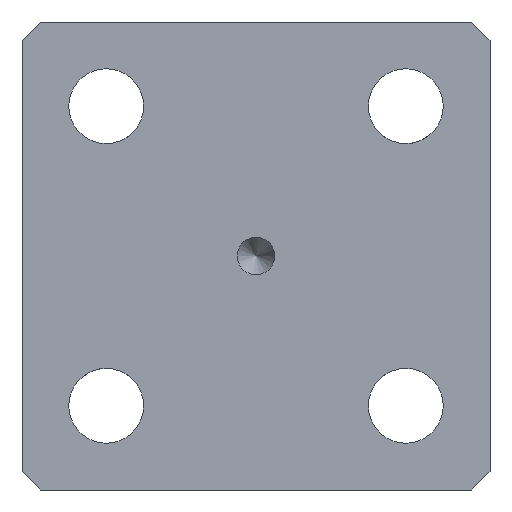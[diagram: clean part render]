
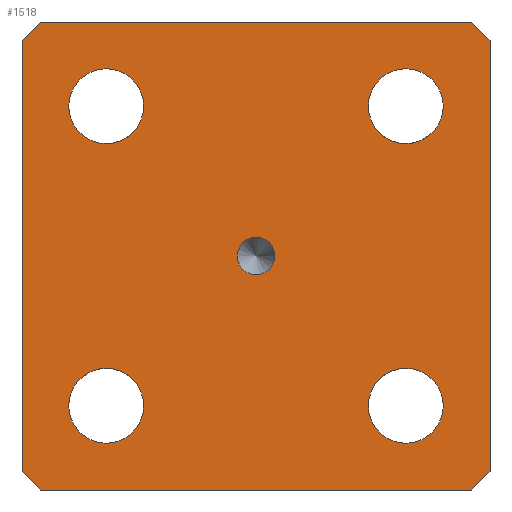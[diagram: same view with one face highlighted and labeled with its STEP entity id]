
A CAD part, front view. The second image highlights one B-rep face of the part: STEP entity #1518.
In plain terms, the highlighted planar face has unit normal (0, -1, 0).
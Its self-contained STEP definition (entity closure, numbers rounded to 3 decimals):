
#56=FACE_BOUND('',#254,.T.);
#57=FACE_BOUND('',#255,.T.);
#58=FACE_BOUND('',#256,.T.);
#59=FACE_BOUND('',#257,.T.);
#60=FACE_BOUND('',#258,.T.);
#115=PLANE('',#1648);
#175=FACE_OUTER_BOUND('',#253,.T.);
#253=EDGE_LOOP('',(#1194,#1195,#1196,#1197,#1198,#1199,#1200,#1201));
#254=EDGE_LOOP('',(#1202,#1203));
#255=EDGE_LOOP('',(#1204,#1205));
#256=EDGE_LOOP('',(#1206,#1207));
#257=EDGE_LOOP('',(#1208,#1209));
#258=EDGE_LOOP('',(#1210,#1211));
#386=LINE('',#2356,#512);
#388=LINE('',#2360,#514);
#389=LINE('',#2362,#515);
#390=LINE('',#2364,#516);
#391=LINE('',#2366,#517);
#392=LINE('',#2368,#518);
#393=LINE('',#2370,#519);
#394=LINE('',#2371,#520);
#512=VECTOR('',#1959,10.);
#514=VECTOR('',#1963,10.);
#515=VECTOR('',#1964,10.);
#516=VECTOR('',#1965,10.);
#517=VECTOR('',#1966,10.);
#518=VECTOR('',#1967,10.);
#519=VECTOR('',#1968,10.);
#520=VECTOR('',#1969,10.);
#586=CIRCLE('',#1649,2.);
#587=CIRCLE('',#1650,2.);
#588=CIRCLE('',#1651,2.);
#589=CIRCLE('',#1652,2.);
#590=CIRCLE('',#1653,2.);
#591=CIRCLE('',#1654,2.);
#592=CIRCLE('',#1655,2.);
#593=CIRCLE('',#1656,2.);
#594=CIRCLE('',#1657,1.);
#595=CIRCLE('',#1658,1.);
#697=VERTEX_POINT('',#2353);
#698=VERTEX_POINT('',#2355);
#699=VERTEX_POINT('',#2359);
#700=VERTEX_POINT('',#2361);
#701=VERTEX_POINT('',#2363);
#702=VERTEX_POINT('',#2365);
#703=VERTEX_POINT('',#2367);
#704=VERTEX_POINT('',#2369);
#705=VERTEX_POINT('',#2372);
#706=VERTEX_POINT('',#2373);
#707=VERTEX_POINT('',#2376);
#708=VERTEX_POINT('',#2377);
#709=VERTEX_POINT('',#2380);
#710=VERTEX_POINT('',#2381);
#711=VERTEX_POINT('',#2384);
#712=VERTEX_POINT('',#2385);
#713=VERTEX_POINT('',#2388);
#714=VERTEX_POINT('',#2389);
#880=EDGE_CURVE('',#697,#698,#386,.T.);
#882=EDGE_CURVE('',#699,#697,#388,.T.);
#883=EDGE_CURVE('',#700,#699,#389,.T.);
#884=EDGE_CURVE('',#701,#700,#390,.T.);
#885=EDGE_CURVE('',#702,#701,#391,.T.);
#886=EDGE_CURVE('',#703,#702,#392,.T.);
#887=EDGE_CURVE('',#704,#703,#393,.T.);
#888=EDGE_CURVE('',#698,#704,#394,.T.);
#889=EDGE_CURVE('',#705,#706,#586,.T.);
#890=EDGE_CURVE('',#706,#705,#587,.T.);
#891=EDGE_CURVE('',#707,#708,#588,.T.);
#892=EDGE_CURVE('',#708,#707,#589,.T.);
#893=EDGE_CURVE('',#709,#710,#590,.T.);
#894=EDGE_CURVE('',#710,#709,#591,.T.);
#895=EDGE_CURVE('',#711,#712,#592,.T.);
#896=EDGE_CURVE('',#712,#711,#593,.T.);
#897=EDGE_CURVE('',#713,#714,#594,.T.);
#898=EDGE_CURVE('',#714,#713,#595,.T.);
#1194=ORIENTED_EDGE('',*,*,#880,.F.);
#1195=ORIENTED_EDGE('',*,*,#882,.F.);
#1196=ORIENTED_EDGE('',*,*,#883,.F.);
#1197=ORIENTED_EDGE('',*,*,#884,.F.);
#1198=ORIENTED_EDGE('',*,*,#885,.F.);
#1199=ORIENTED_EDGE('',*,*,#886,.F.);
#1200=ORIENTED_EDGE('',*,*,#887,.F.);
#1201=ORIENTED_EDGE('',*,*,#888,.F.);
#1202=ORIENTED_EDGE('',*,*,#889,.T.);
#1203=ORIENTED_EDGE('',*,*,#890,.T.);
#1204=ORIENTED_EDGE('',*,*,#891,.T.);
#1205=ORIENTED_EDGE('',*,*,#892,.T.);
#1206=ORIENTED_EDGE('',*,*,#893,.T.);
#1207=ORIENTED_EDGE('',*,*,#894,.T.);
#1208=ORIENTED_EDGE('',*,*,#895,.T.);
#1209=ORIENTED_EDGE('',*,*,#896,.T.);
#1210=ORIENTED_EDGE('',*,*,#897,.T.);
#1211=ORIENTED_EDGE('',*,*,#898,.T.);
#1518=ADVANCED_FACE('',(#175,#56,#57,#58,#59,#60),#115,.T.);
#1648=AXIS2_PLACEMENT_3D('',#2358,#1961,#1962);
#1649=AXIS2_PLACEMENT_3D('',#2374,#1970,#1971);
#1650=AXIS2_PLACEMENT_3D('',#2375,#1972,#1973);
#1651=AXIS2_PLACEMENT_3D('',#2378,#1974,#1975);
#1652=AXIS2_PLACEMENT_3D('',#2379,#1976,#1977);
#1653=AXIS2_PLACEMENT_3D('',#2382,#1978,#1979);
#1654=AXIS2_PLACEMENT_3D('',#2383,#1980,#1981);
#1655=AXIS2_PLACEMENT_3D('',#2386,#1982,#1983);
#1656=AXIS2_PLACEMENT_3D('',#2387,#1984,#1985);
#1657=AXIS2_PLACEMENT_3D('',#2390,#1986,#1987);
#1658=AXIS2_PLACEMENT_3D('',#2391,#1988,#1989);
#1959=DIRECTION('',(-0.707,0.,0.707));
#1961=DIRECTION('center_axis',(0.,-1.,0.));
#1962=DIRECTION('ref_axis',(0.,0.,-1.));
#1963=DIRECTION('',(-1.,0.,0.));
#1964=DIRECTION('',(-0.707,0.,-0.707));
#1965=DIRECTION('',(0.,0.,-1.));
#1966=DIRECTION('',(0.707,0.,-0.707));
#1967=DIRECTION('',(1.,0.,0.));
#1968=DIRECTION('',(0.707,0.,0.707));
#1969=DIRECTION('',(0.,0.,1.));
#1970=DIRECTION('center_axis',(0.,1.,0.));
#1971=DIRECTION('ref_axis',(1.,0.,0.));
#1972=DIRECTION('center_axis',(0.,1.,0.));
#1973=DIRECTION('ref_axis',(1.,0.,0.));
#1974=DIRECTION('center_axis',(0.,1.,0.));
#1975=DIRECTION('ref_axis',(1.,0.,0.));
#1976=DIRECTION('center_axis',(0.,1.,0.));
#1977=DIRECTION('ref_axis',(1.,0.,0.));
#1978=DIRECTION('center_axis',(0.,1.,0.));
#1979=DIRECTION('ref_axis',(1.,0.,0.));
#1980=DIRECTION('center_axis',(0.,1.,0.));
#1981=DIRECTION('ref_axis',(1.,0.,0.));
#1982=DIRECTION('center_axis',(0.,1.,0.));
#1983=DIRECTION('ref_axis',(1.,0.,0.));
#1984=DIRECTION('center_axis',(0.,1.,0.));
#1985=DIRECTION('ref_axis',(1.,0.,0.));
#1986=DIRECTION('center_axis',(0.,1.,0.));
#1987=DIRECTION('ref_axis',(1.,0.,0.));
#1988=DIRECTION('center_axis',(0.,1.,0.));
#1989=DIRECTION('ref_axis',(1.,0.,0.));
#2353=CARTESIAN_POINT('',(-11.5,0.,-12.5));
#2355=CARTESIAN_POINT('',(-12.5,0.,-11.5));
#2356=CARTESIAN_POINT('',(-12.,0.,-12.));
#2358=CARTESIAN_POINT('Origin',(0.,0.,0.));
#2359=CARTESIAN_POINT('',(11.5,0.,-12.5));
#2360=CARTESIAN_POINT('',(12.5,0.,-12.5));
#2361=CARTESIAN_POINT('',(12.5,0.,-11.5));
#2362=CARTESIAN_POINT('',(12.,0.,-12.));
#2363=CARTESIAN_POINT('',(12.5,0.,11.5));
#2364=CARTESIAN_POINT('',(12.5,0.,12.5));
#2365=CARTESIAN_POINT('',(11.5,0.,12.5));
#2366=CARTESIAN_POINT('',(12.,0.,12.));
#2367=CARTESIAN_POINT('',(-11.5,0.,12.5));
#2368=CARTESIAN_POINT('',(-12.5,0.,12.5));
#2369=CARTESIAN_POINT('',(-12.5,0.,11.5));
#2370=CARTESIAN_POINT('',(-12.,0.,12.));
#2371=CARTESIAN_POINT('',(-12.5,0.,-12.5));
#2372=CARTESIAN_POINT('',(10.,0.,-8.));
#2373=CARTESIAN_POINT('',(6.,0.,-8.));
#2374=CARTESIAN_POINT('Origin',(8.,0.,-8.));
#2375=CARTESIAN_POINT('Origin',(8.,0.,-8.));
#2376=CARTESIAN_POINT('',(-6.,0.,-8.));
#2377=CARTESIAN_POINT('',(-10.,0.,-8.));
#2378=CARTESIAN_POINT('Origin',(-8.,0.,-8.));
#2379=CARTESIAN_POINT('Origin',(-8.,0.,-8.));
#2380=CARTESIAN_POINT('',(10.,0.,8.));
#2381=CARTESIAN_POINT('',(6.,0.,8.));
#2382=CARTESIAN_POINT('Origin',(8.,0.,8.));
#2383=CARTESIAN_POINT('Origin',(8.,0.,8.));
#2384=CARTESIAN_POINT('',(-6.,0.,8.));
#2385=CARTESIAN_POINT('',(-10.,0.,8.));
#2386=CARTESIAN_POINT('Origin',(-8.,0.,8.));
#2387=CARTESIAN_POINT('Origin',(-8.,0.,8.));
#2388=CARTESIAN_POINT('',(1.,0.,0.));
#2389=CARTESIAN_POINT('',(-1.,0.,0.));
#2390=CARTESIAN_POINT('Origin',(0.,0.,0.));
#2391=CARTESIAN_POINT('Origin',(0.,0.,0.));
